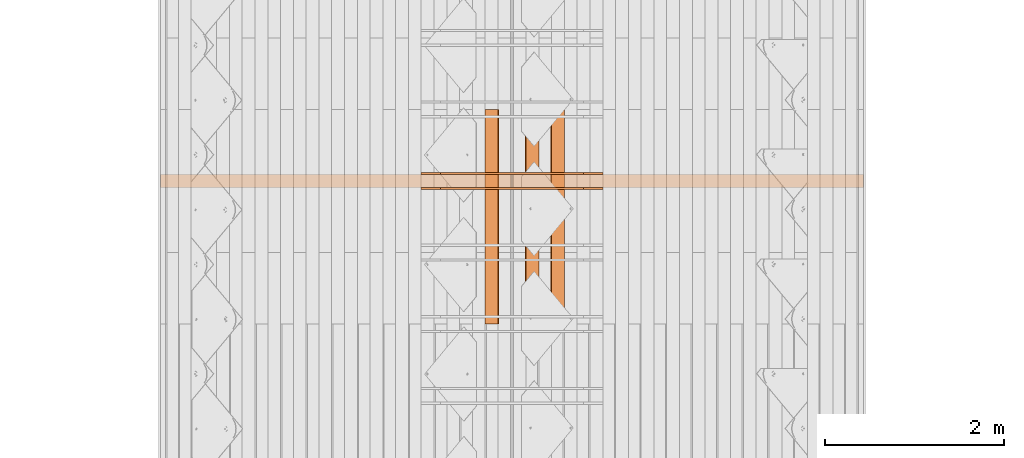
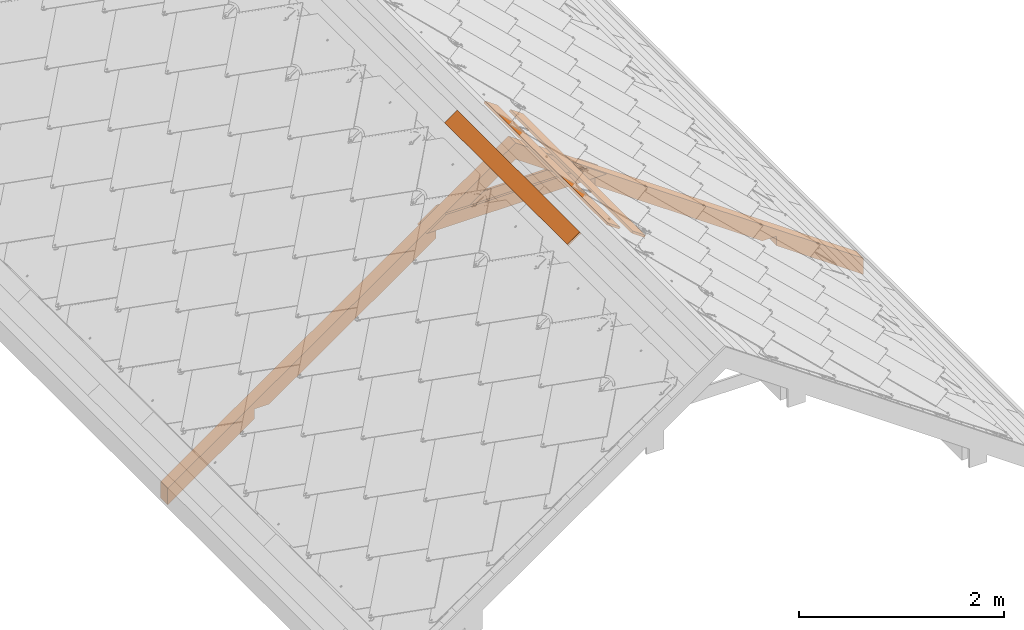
# One storey, part 39 of 151: 6 proxies, 1 element without a shape of its own.
"""IFC2X3 building model written with IfcOpenShell, lengths in millimetres."""

from ifc_helpers import new_model, entity, si_unit, converted_unit, derived_unit, direction, frame, frame_2d, origin, place, context, subcontext, project, spatial, polyline, rectangle, outline, extrude, source, transform, mapped, material, type_object, type_shapes, element, aggregate, save


model = new_model("IFC2X3")

# Units and contexts
model_context = context("Model", 3, precision=0.01, world=origin(), true_north=direction((6.12303176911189e-17, 1.0)))
body_context = subcontext(model_context, "Body", "Model", "MODEL_VIEW")
ifc_project = project(units=[si_unit("LENGTHUNIT", "METRE", prefix="MILLI"), si_unit("AREAUNIT", "SQUARE_METRE"), si_unit("VOLUMEUNIT", "CUBIC_METRE"), converted_unit("PLANEANGLEUNIT", "DEGREE", entity("IfcRatioMeasure", 0.0174532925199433), si_unit("PLANEANGLEUNIT", "RADIAN"), dimensions=[0, 0, 0, 0, 0, 0, 0]), si_unit("MASSUNIT", "GRAM", prefix="KILO"), derived_unit("MASSDENSITYUNIT", [(si_unit("MASSUNIT", "GRAM", prefix="KILO"), 1), (si_unit("LENGTHUNIT", "METRE"), -3)]), si_unit("TIMEUNIT", "SECOND"), si_unit("FREQUENCYUNIT", "HERTZ"), si_unit("THERMODYNAMICTEMPERATUREUNIT", "DEGREE_CELSIUS"), derived_unit("THERMALTRANSMITTANCEUNIT", [(si_unit("MASSUNIT", "GRAM", prefix="KILO"), 1), (si_unit("THERMODYNAMICTEMPERATUREUNIT", "KELVIN"), -1), (si_unit("TIMEUNIT", "SECOND"), -3)]), derived_unit("VOLUMETRICFLOWRATEUNIT", [(si_unit("LENGTHUNIT", "METRE"), 3), (si_unit("TIMEUNIT", "SECOND"), -1)]), si_unit("ELECTRICCURRENTUNIT", "AMPERE"), si_unit("ELECTRICVOLTAGEUNIT", "VOLT"), si_unit("POWERUNIT", "WATT"), si_unit("FORCEUNIT", "NEWTON", prefix="KILO"), si_unit("ILLUMINANCEUNIT", "LUX"), si_unit("LUMINOUSFLUXUNIT", "LUMEN"), si_unit("LUMINOUSINTENSITYUNIT", "CANDELA"), derived_unit("USERDEFINED", [(si_unit("MASSUNIT", "GRAM", prefix="KILO"), -1), (si_unit("LENGTHUNIT", "METRE"), -2), (si_unit("TIMEUNIT", "SECOND"), 3), (si_unit("LUMINOUSFLUXUNIT", "LUMEN"), 1)]), derived_unit("LINEARVELOCITYUNIT", [(si_unit("LENGTHUNIT", "METRE"), 1), (si_unit("TIMEUNIT", "SECOND"), -1)]), si_unit("PRESSUREUNIT", "PASCAL"), derived_unit("USERDEFINED", [(si_unit("LENGTHUNIT", "METRE"), -2), (si_unit("MASSUNIT", "GRAM", prefix="KILO"), 1), (si_unit("TIMEUNIT", "SECOND"), -2)])], contexts=[model_context])

# Site, building, storey
site_placement = place(None, origin())
site = spatial("IfcSite", under=ifc_project, at=site_placement, Name="Default", CompositionType="ELEMENT")
building_placement = place(site_placement, origin())
building = spatial("IfcBuilding", under=site, at=building_placement, CompositionType="ELEMENT")
storey_placement = place(building_placement, origin())
storey = spatial("IfcBuildingStorey", under=building, at=storey_placement, Name="Level 1", CompositionType="ELEMENT", Elevation=0.0)

# Assembly, proxies
assembly_placement = place(storey_placement, origin())
assembly = element("IfcElementAssembly", 1, at=assembly_placement, inside=storey, Name="Structural Framing Assembly:Roof Construction Assembly", ObjectType="Structural Framing Assembly:Roof Construction Assembly", AssemblyPlace="NOTDEFINED", PredefinedType="USERDEFINED")
ifc_material = material(Name="Wood - Generic - Wood For Showcase")
building_element_proxy_type_1 = type_object("IfcBuildingElementProxyType", Name="Structural Framing 1", PredefinedType="NOTDEFINED", material=ifc_material)
shared_shape_1 = source(origin(), body_context, "Body", "SweptSolid", [
    extrude(outline(polyline([(-929.245683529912, -1327.10037070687), (3863.25950492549, -1327.10037070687), (3975.29271103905, -1167.10037070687), (2778.93361405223, -1167.10037070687), (2713.54351952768, -1260.48710386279), (2580.17344271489, -1167.10037070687), (278.933614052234, -1167.10037070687), (213.543519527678, -1260.48710386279), (80.1734427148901, -1167.10037070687), (-817.212477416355, -1167.10037070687), (-1124.13653843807, -323.833443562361), (-1257.50661525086, -230.446710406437), (-1192.11652072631, -137.059977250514), (-1979.18689675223, 2025.39810840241), (-2112.55697356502, 2118.78484155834), (-2047.16687904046, 2212.17157471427), (-2456.34578886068, 3336.38138996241), (-2568.37899497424, 3176.38138996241), (-929.245683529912, -1327.10037070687)])), frame((1206.77890726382, 3785.55080214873, 1179.90959070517), z_axis=(0.0, 1.0, 0.0), x_axis=(0.819152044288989, 0.0, -0.573576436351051)), (0.0, 0.0, 1.0), 140.0),
])
type_shapes(building_element_proxy_type_1, [shared_shape_1])
proxy_1_placement = place(assembly_placement, frame((57.4878711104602, -6400.0, 0.0)))
proxy_1 = element("IfcBuildingElementProxy", 2, at=proxy_1_placement, type_object=building_element_proxy_type_1, material=ifc_material, Name="Structural Framing 9:Structural Framing 1", ObjectType="Structural Framing 9:Structural Framing 1", context=body_context, shape_type="MappedRepresentation", body=[
    mapped(shared_shape_1, transform((0.0, 0.0, 0.0), scale=1.0)),
])
building_element_proxy_type_2 = type_object("IfcBuildingElementProxyType", Name="Structural Framing 15", PredefinedType="NOTDEFINED", material=ifc_material)
shared_shape_2 = source(origin(), body_context, "Body", "SweptSolid", [
    extrude(rectangle(XDim=24.9999999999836, YDim=174.344679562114, at=frame_2d((2.22044604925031e-13, -1.63424829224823e-13), x_axis=(1.0, 0.0))), frame((1285.35601305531, 1595.55080214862, 2760.23940055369), z_axis=(0.0, 1.0, 0.0), x_axis=(0.573576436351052, 0.0, 0.819152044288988)), (0.0, 0.0, 1.0), 2400.00000000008),
])
type_shapes(building_element_proxy_type_2, [shared_shape_2])
proxy_2_placement = place(assembly_placement, frame((200.302671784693, -5740.0, -100.0)))
proxy_2 = element("IfcBuildingElementProxy", 3, at=proxy_2_placement, type_object=building_element_proxy_type_2, material=ifc_material, Name="Structural Framing 162:Structural Framing 15", ObjectType="Structural Framing 162:Structural Framing 15", context=body_context, shape_type="MappedRepresentation", body=[
    mapped(shared_shape_2, transform((0.0, 0.0, 0.0), scale=1.0)),
])
building_element_proxy_type_3 = type_object("IfcBuildingElementProxyType", Name="Structural Framing 15", PredefinedType="NOTDEFINED", material=ifc_material)
shared_shape_3 = source(origin(), body_context, "Body", "SweptSolid", [
    extrude(rectangle(XDim=24.9999999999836, YDim=174.344679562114, at=frame_2d((2.22044604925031e-13, -1.63424829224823e-13), x_axis=(1.0, 0.0))), frame((1285.35601305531, 1595.55080214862, 2760.23940055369), z_axis=(0.0, 1.0, 0.0), x_axis=(0.573576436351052, 0.0, 0.819152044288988)), (0.0, 0.0, 1.0), 2400.00000000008),
])
type_shapes(building_element_proxy_type_3, [shared_shape_3])
proxy_3_placement = place(assembly_placement, frame((485.932273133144, -5740.0, -300.0)))
proxy_3 = element("IfcBuildingElementProxy", 4, at=proxy_3_placement, type_object=building_element_proxy_type_3, material=ifc_material, Name="Structural Framing 172:Structural Framing 15", ObjectType="Structural Framing 172:Structural Framing 15", context=body_context, shape_type="MappedRepresentation", body=[
    mapped(shared_shape_3, transform((0.0, 0.0, 0.0), scale=1.0)),
])
building_element_proxy_type_4 = type_object("IfcBuildingElementProxyType", Name="Structural Framing 15", PredefinedType="NOTDEFINED", material=ifc_material)
shared_shape_4 = source(origin(), body_context, "Body", "SweptSolid", [
    extrude(rectangle(XDim=24.9999999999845, YDim=174.344679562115, at=frame_2d((-1.77635683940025e-13, -4.54747350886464e-13), x_axis=(0.0, 1.0))), frame((1128.20180147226, 1595.55080214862, 2760.23940055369), z_axis=(0.0, 1.0, 0.0), x_axis=(-0.819152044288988, 0.0, -0.573576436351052)), (0.0, 0.0, 1.0), 2400.00000000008),
])
type_shapes(building_element_proxy_type_4, [shared_shape_4])
proxy_4_placement = place(assembly_placement, frame((-85.3269295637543, -5740.0, -100.0)))
proxy_4 = element("IfcBuildingElementProxy", 5, at=proxy_4_placement, type_object=building_element_proxy_type_4, material=ifc_material, Name="Structural Framing 22:Structural Framing 15", ObjectType="Structural Framing 22:Structural Framing 15", context=body_context, shape_type="MappedRepresentation", body=[
    mapped(shared_shape_4, transform((0.0, 0.0, 0.0), scale=1.0)),
])
building_element_proxy_type_5 = type_object("IfcBuildingElementProxyType", Name="Structural Framing 296", PredefinedType="NOTDEFINED", material=ifc_material)
shared_shape_5 = source(origin(), body_context, "Body", "SweptSolid", [
    extrude(outline(polyline([(-1014.04699829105, -75.0), (1014.04699829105, -75.0), (799.824797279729, 75.0), (-799.824797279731, 75.0), (-1014.04699829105, -75.0)])), frame((1206.77890726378, 3760.55080214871, 2164.95664769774), z_axis=(0.0, 1.0, 0.0), x_axis=(-1.0, 0.0, 0.0)), (0.0, 0.0, 1.0), 24.9999999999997),
])
type_shapes(building_element_proxy_type_5, [shared_shape_5])
proxy_5_placement = place(assembly_placement, frame((57.4878711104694, -6400.0, 0.0)))
proxy_5 = element("IfcBuildingElementProxy", 6, at=proxy_5_placement, type_object=building_element_proxy_type_5, material=ifc_material, Name="Structural Framing 311:Structural Framing 296", ObjectType="Structural Framing 311:Structural Framing 296", context=body_context, shape_type="MappedRepresentation", body=[
    mapped(shared_shape_5, transform((0.0, 0.0, 0.0), scale=1.0)),
])
building_element_proxy_type_6 = type_object("IfcBuildingElementProxyType", Name="Structural Framing 296", PredefinedType="NOTDEFINED", material=ifc_material)
shared_shape_6 = source(origin(), body_context, "Body", "SweptSolid", [
    extrude(outline(polyline([(-1014.04699829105, -75.0), (1014.04699829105, -75.0), (799.824797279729, 75.0), (-799.824797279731, 75.0), (-1014.04699829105, -75.0)])), frame((1206.77890726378, 2325.55080214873, 2164.95664769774), z_axis=(0.0, 1.0, 0.0), x_axis=(-1.0, 0.0, 0.0)), (0.0, 0.0, 1.0), 25.0),
])
type_shapes(building_element_proxy_type_6, [shared_shape_6])
proxy_6_placement = place(assembly_placement, frame((57.4878711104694, -4800.0, 0.0)))
proxy_6 = element("IfcBuildingElementProxy", 7, at=proxy_6_placement, type_object=building_element_proxy_type_6, material=ifc_material, Name="Structural Framing 312:Structural Framing 296", ObjectType="Structural Framing 312:Structural Framing 296", context=body_context, shape_type="MappedRepresentation", body=[
    mapped(shared_shape_6, transform((0.0, 0.0, 0.0), scale=1.0)),
])
aggregate(assembly, [proxy_1, proxy_2, proxy_3, proxy_4, proxy_5, proxy_6])

save(model, "model.ifc")
